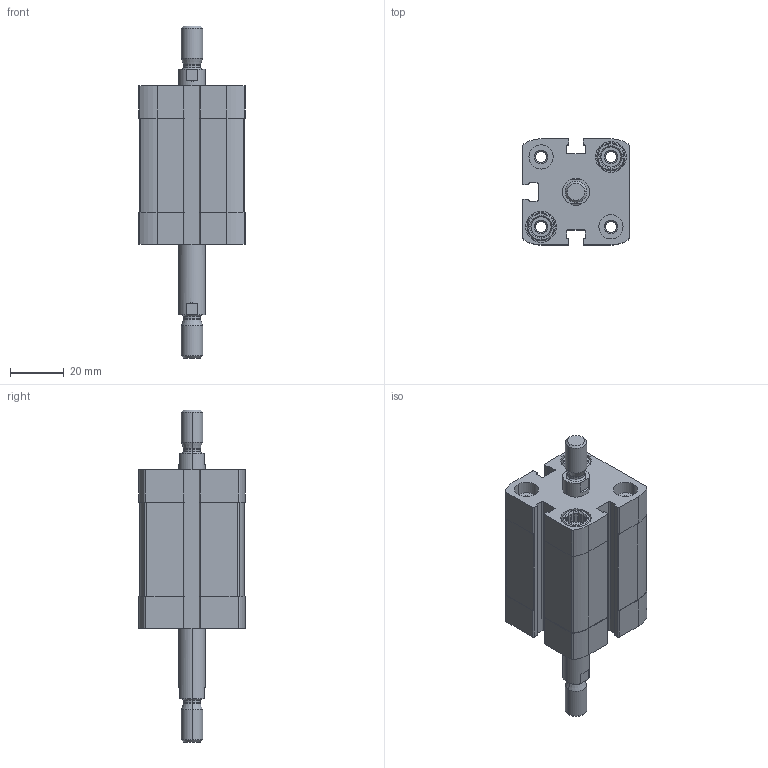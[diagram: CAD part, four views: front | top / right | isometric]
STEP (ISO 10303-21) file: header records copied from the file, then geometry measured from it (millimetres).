
FILE_DESCRIPTION (( 'STEP AP203' ), '1' );
FILE_NAME ('CCN25-20-P.STEP', '2020-06-22T18:42:50', ( '' ), ( '' ), 'SwSTEP 2.0', 'SolidWorks 2019', '' );
FILE_SCHEMA (( 'CONFIG_CONTROL_DESIGN' ));
Length unit declared in the file: millimetre
Products named in the file (1): CCN25-20-P
Bounding box: 39.5 x 39.5 x 123.5 mm (x, y, z)
Volume: 73123.4 mm3; surface area: 28565 mm2
Topology: 2 solids, 2 shells, 428 faces, 1122 edges, 730 vertices
Faces by surface type: plane 236, cylinder 140, cone 44, torus 8
Entity records: 13443 total; most frequent: CARTESIAN_POINT 2581, DIRECTION 2318, ORIENTED_EDGE 2244, EDGE_CURVE 1122, AXIS2_PLACEMENT_3D 867, VERTEX_POINT 730, VECTOR 584, LINE 584
